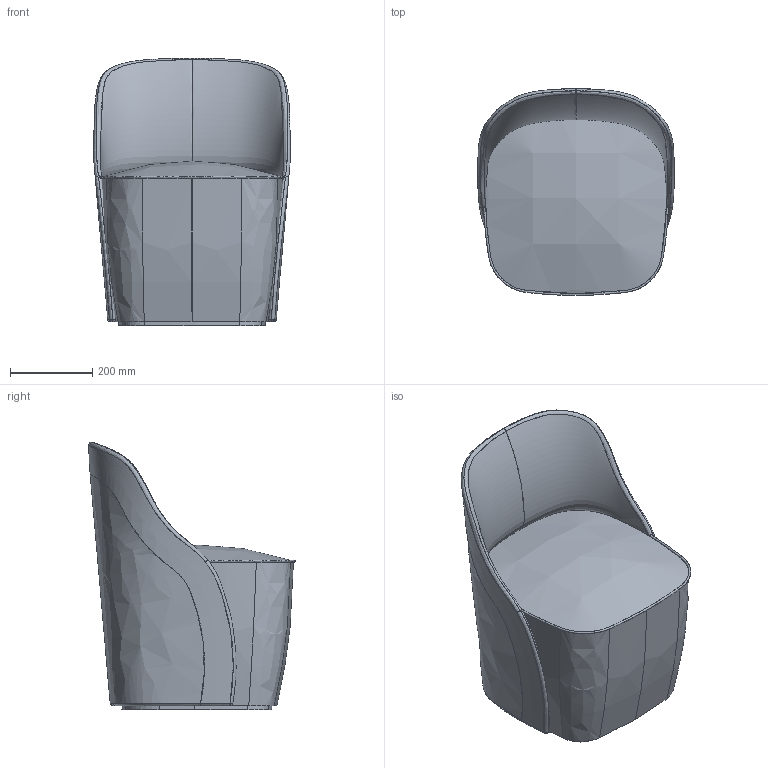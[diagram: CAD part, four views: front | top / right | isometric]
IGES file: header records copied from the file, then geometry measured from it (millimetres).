
Global section: file name: Y:\GESTIO VERGES\PRODUCTE\PRODUCTE NOU\LA GRANJA\2016\POUF THE OTHER ROOM\817.igs; native system: Rhinoceros ( Mar 28 2013 ); preprocessor: Trout Lake IGES 012 Mar 28 2013; date: 170904.135436; units: millimetre
Bounding box: 477.62 x 501.9 x 650 mm (x, y, z)
Surface area: 2946900.1 mm2 (no closed solid volume)
Topology: 0 solids, 0 shells, 60 faces, 1709 edges, 1688 vertices
Faces by surface type: bspline 60
